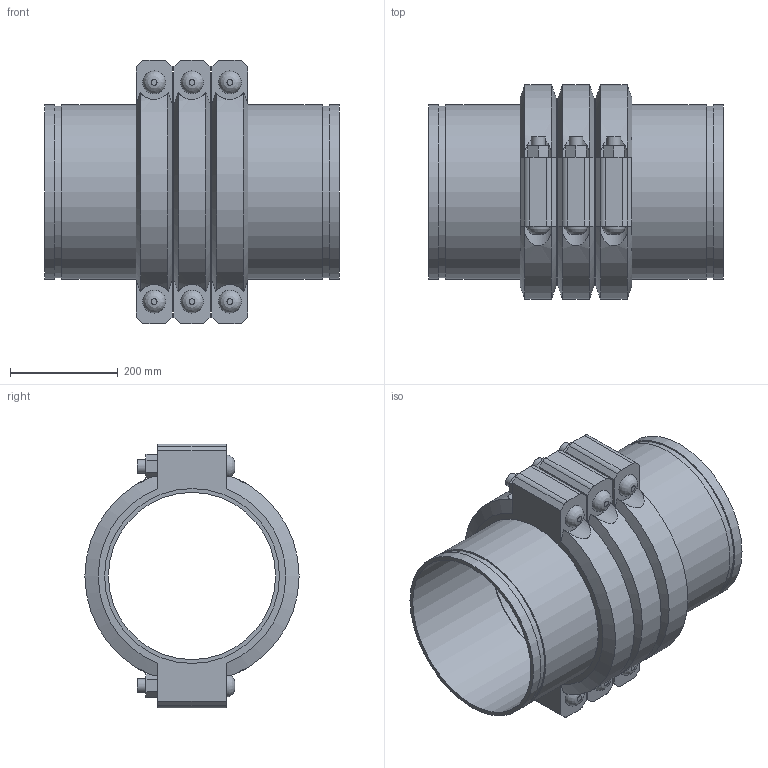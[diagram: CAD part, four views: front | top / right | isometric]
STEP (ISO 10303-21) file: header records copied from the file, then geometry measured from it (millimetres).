
FILE_DESCRIPTION(/* description */ ('VIC EXPANSION JOINT 3 COUPLINGS COMPRESSED STYLE 155 (OGS)','CAx-IF Rec.Pracs.---Representation and Presentation of Product Manufacturing Information (PMI)---4.0---2014-10-13'),/* implementation_level */ '2;1');
FILE_NAME(/* name */ 'C:\Users\kkamble\AppData\Roaming\Autodesk\ApplicationPlugins\Victaulic.Temp\A971\Victaulic_IPS_Expansion Joint_Compressed_3 Couplings_Style 155 (OGS)_12 (300).stp',/* time_stamp */ '2021-06-27T00:26:06+02:00',/* author */ ('kkamble'),/* organization */ ('Victaulic'),/* preprocessor_version */ 'ST-DEVELOPER v17.2',/* originating_system */ 'Autodesk Inventor 2019',/* authorisation */ '');
FILE_SCHEMA (('AP242_MANAGED_MODEL_BASED_3D_ENGINEERING_MIM_LF { 1 0 10303 442 1 1 4 }'));
Length unit declared in the file: inch
Products named in the file (4): 155-12.0; Nipple-12.0; Nipple-12.0_1; 077-3 Coup-12.0
Assembly tree (7 placements, depth 2):
  155-12.0
    Nipple-12.0  x2
    Nipple-12.0_1  x2
    077-3 Coup-12.0  x3
Bounding box: 546.1 x 397 x 488.95 mm (x, y, z)
Volume: 13738396.2 mm3; surface area: 2113870.5 mm2
Topology: 7 solids, 13 shells, 219 faces, 537 edges, 378 vertices
Faces by surface type: plane 126, cylinder 75, cone 12, bspline 6
Full cylindrical faces by diameter (mm): 25.4 x12, 27.432 x6, 309.677 x4, 318.287 x8, 323.85 x15
Entity records: 2931 total; most frequent: CARTESIAN_POINT 641, DIRECTION 451, ORIENTED_EDGE 398, EDGE_CURVE 199, AXIS2_PLACEMENT_3D 182, VERTEX_POINT 142, EDGE_LOOP 105, CIRCLE 92
